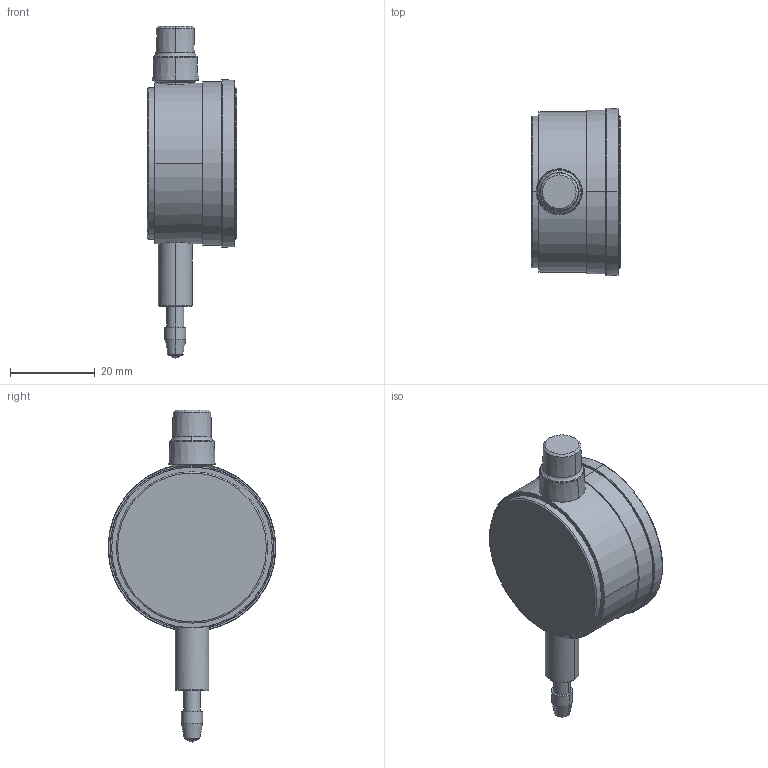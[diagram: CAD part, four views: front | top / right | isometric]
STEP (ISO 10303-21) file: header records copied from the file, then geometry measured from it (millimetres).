
FILE_DESCRIPTION(('Creo Elements/Direct Modeling STEP Export'),'2;1');
FILE_NAME('1041SB.stp','2020-03-23T 9:25:39',(''),(''),'Creo Elements/Direct Modeling STEP processor for AP214 (Solid Model)','Creo Elements/Direct Modeling 18.1I 13-Aug-2016 (C) Parametric Technology GmbH','');
FILE_SCHEMA(('AUTOMOTIVE_DESIGN { 1 0 10303 214 1 1 1 1 }'));
Length unit declared in the file: millimetre
Products named in the file (2): 1041SB
Assembly tree (1 placements, depth 2):
  1041SB
    1041SB
Bounding box: 21.1 x 39.71 x 78.5 mm (x, y, z)
Volume: 26057.9 mm3; surface area: 5928.6 mm2
Topology: 1 solids, 1 shells, 64 faces, 152 edges, 99 vertices
Faces by surface type: cone 26, cylinder 16, plane 12, torus 6, revolution 2, sphere 2
Entity records: 2432 total; most frequent: CARTESIAN_POINT 1046, ORIENTED_EDGE 300, DIRECTION 262, EDGE_CURVE 150, AXIS2_PLACEMENT_3D 109, VERTEX_POINT 99, EDGE_LOOP 75, FACE_OUTER_BOUND 64
